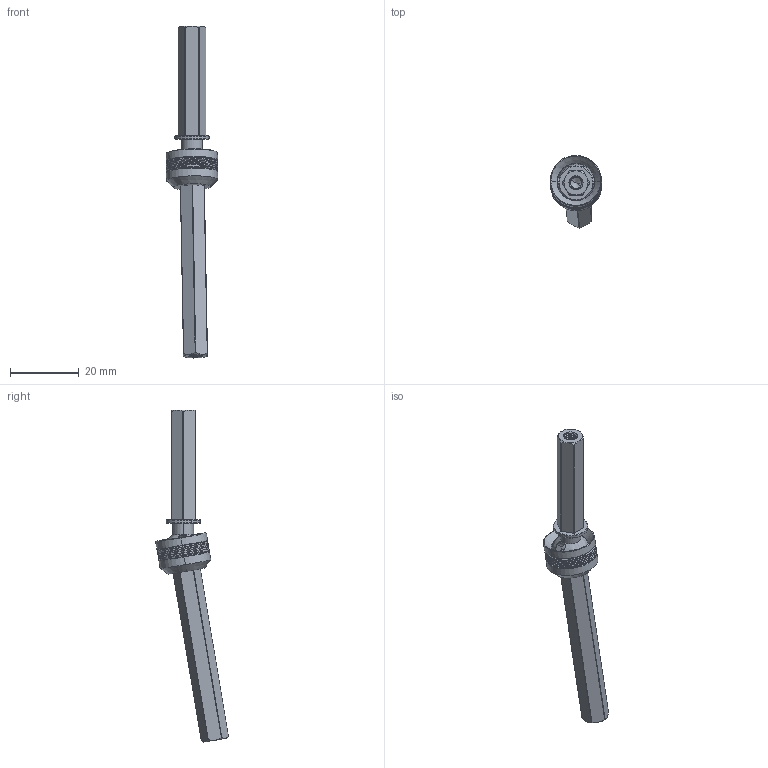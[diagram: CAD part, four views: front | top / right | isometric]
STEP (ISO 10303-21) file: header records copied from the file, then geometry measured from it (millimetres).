
FILE_DESCRIPTION (( 'STEP AP214' ), '1' );
FILE_NAME ('2108-4008-0001 assembly.STEP', '2021-06-03T13:58:37', ( '' ), ( '' ), 'SwSTEP 2.0', 'SolidWorks 2016', '' );
FILE_SCHEMA (( 'AUTOMOTIVE_DESIGN' ));
Length unit declared in the file: millimetre
Products named in the file (6): 2108-4008-0001 assembly; 2108-4008 Ball 1; 2108-4008 Cup 1; 2108-4008 Pin Retainer; 2108-4008 Rod; 2108-4008 Pin
Assembly tree (5 placements, depth 2):
  2108-4008-0001 assembly
    2108-4008 Ball 1
    2108-4008 Pin Retainer
    2108-4008 Pin
    2108-4008 Rod
    2108-4008 Cup 1
Bounding box: 15.14 x 21.2 x 96.79 mm (x, y, z)
Volume: 4764.5 mm3; surface area: 4839.7 mm2
Topology: 5 solids, 5 shells, 267 faces, 734 edges, 474 vertices
Faces by surface type: cylinder 180, cone 38, plane 28, bspline 21
Entity records: 20275 total; most frequent: CARTESIAN_POINT 13973, ORIENTED_EDGE 1460, DIRECTION 997, EDGE_CURVE 730, VERTEX_POINT 474, AXIS2_PLACEMENT_3D 382, EDGE_LOOP 278, ADVANCED_FACE 267
